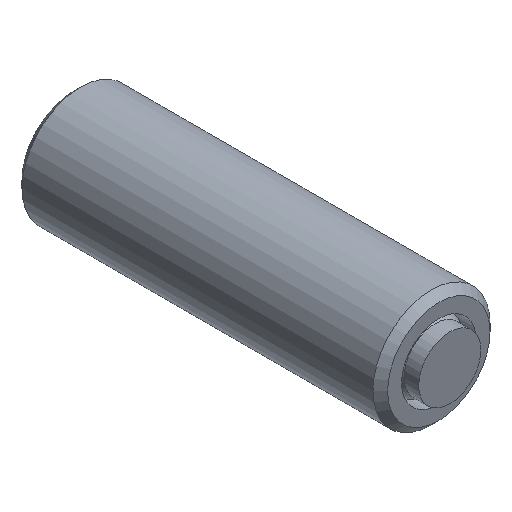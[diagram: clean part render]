
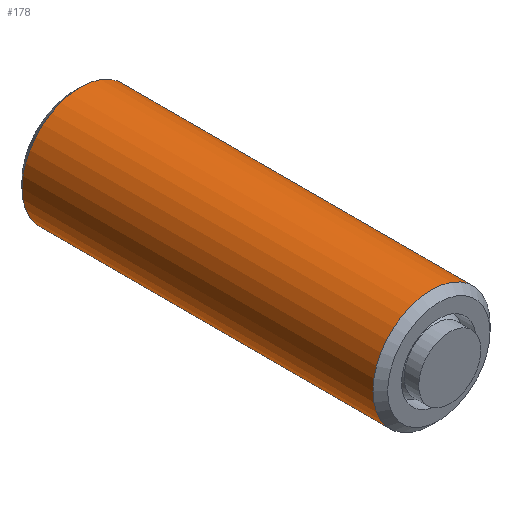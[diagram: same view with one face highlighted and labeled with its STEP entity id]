
A CAD part, isometric view. The second image highlights one B-rep face of the part: STEP entity #178.
In plain terms, the highlighted cylindrical face has radius 8 mm (diameter 16 mm), a full revolution.
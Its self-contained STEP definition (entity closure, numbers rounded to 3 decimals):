
#178 = ADVANCED_FACE( '', ( #213, #214 ), #215, .T. );
#213 = FACE_OUTER_BOUND( '', #259, .T. );
#214 = FACE_OUTER_BOUND( '', #260, .T. );
#215 = CYLINDRICAL_SURFACE( '', #261, 8. );
#259 = EDGE_LOOP( '', ( #333 ) );
#260 = EDGE_LOOP( '', ( #334 ) );
#261 = AXIS2_PLACEMENT_3D( '', #335, #336, #337 );
#333 = ORIENTED_EDGE( '', *, *, #406, .F. );
#334 = ORIENTED_EDGE( '', *, *, #389, .T. );
#335 = CARTESIAN_POINT( '', ( 0., 0., 0. ) );
#336 = DIRECTION( '', ( 0., 1., 0. ) );
#337 = DIRECTION( '', ( 0., 0., -1. ) );
#389 = EDGE_CURVE( '', #417, #417, #418, .T. );
#406 = EDGE_CURVE( '', #449, #449, #450, .T. );
#417 = VERTEX_POINT( '', #465 );
#418 = CIRCLE( '', #466, 8. );
#449 = VERTEX_POINT( '', #508 );
#450 = CIRCLE( '', #509, 8. );
#465 = CARTESIAN_POINT( '', ( 0., 49., -8. ) );
#466 = AXIS2_PLACEMENT_3D( '', #531, #532, #533 );
#508 = CARTESIAN_POINT( '', ( 0., 1., -8. ) );
#509 = AXIS2_PLACEMENT_3D( '', #560, #561, #562 );
#531 = CARTESIAN_POINT( '', ( 0., 49., 0. ) );
#532 = DIRECTION( '', ( 0., -1., 0. ) );
#533 = DIRECTION( '', ( 0., 0., -1. ) );
#560 = CARTESIAN_POINT( '', ( 0., 1., 0. ) );
#561 = DIRECTION( '', ( 0., -1., 0. ) );
#562 = DIRECTION( '', ( 0., 0., -1. ) );
